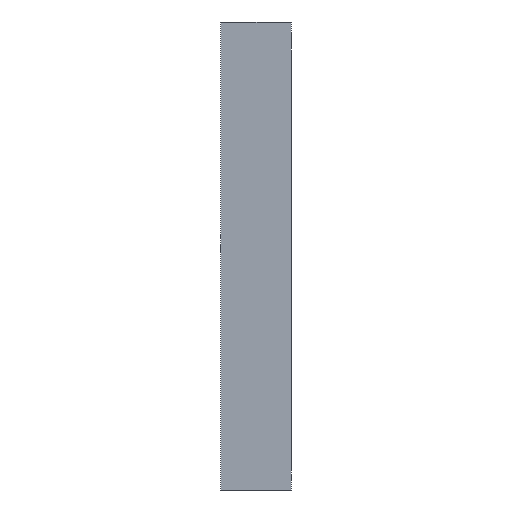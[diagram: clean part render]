
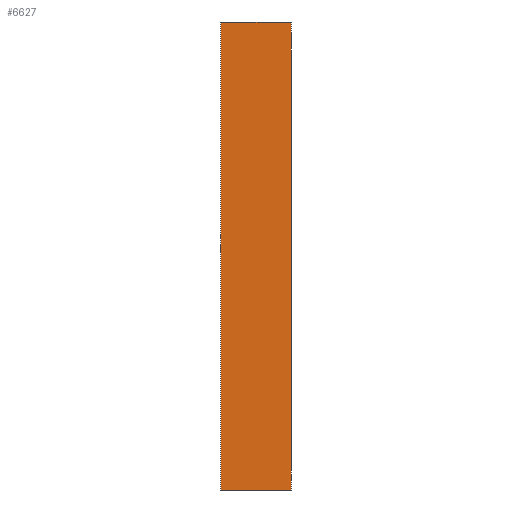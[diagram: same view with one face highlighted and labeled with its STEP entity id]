
A CAD part, left-side view. The second image highlights one B-rep face of the part: STEP entity #6627.
In plain terms, the highlighted planar face has unit normal (-1, 0, 0).
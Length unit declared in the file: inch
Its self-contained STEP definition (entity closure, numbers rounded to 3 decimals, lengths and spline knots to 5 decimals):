
#1243 = VERTEX_POINT ( 'NONE', #10885 ) ;
#1565 = EDGE_CURVE ( 'NONE', #1243, #1699, #4957, .T. ) ;
#1699 = VERTEX_POINT ( 'NONE', #7624 ) ;
#2345 = EDGE_CURVE ( 'NONE', #1699, #12385, #31453, .T. ) ;
#4015 = CARTESIAN_POINT ( 'NONE',  ( -11.51987, 2.7, 8.98487 ) ) ;
#4496 = CARTESIAN_POINT ( 'NONE',  ( -11.51987, 2.7, 8.98487 ) ) ;
#4904 = VECTOR ( 'NONE', #8959, 39.37008 ) ;
#4957 = LINE ( 'NONE', #4496, #39327 ) ;
#6627 = ADVANCED_FACE ( 'NONE', ( #40830 ), #23928, .T. ) ;
#7057 = EDGE_CURVE ( 'NONE', #32916, #12385, #30366, .T. ) ;
#7356 = DIRECTION ( 'NONE',  ( -1., 0., 0. ) ) ;
#7624 = CARTESIAN_POINT ( 'NONE',  ( -11.51987, 2.7, -8.98487 ) ) ;
#8959 = DIRECTION ( 'NONE',  ( 0., -1., 0. ) ) ;
#10885 = CARTESIAN_POINT ( 'NONE',  ( -11.51987, 2.7, 8.98487 ) ) ;
#12385 = VERTEX_POINT ( 'NONE', #27766 ) ;
#14508 = CARTESIAN_POINT ( 'NONE',  ( -11.51987, 2.7, -8.98487 ) ) ;
#14728 = VECTOR ( 'NONE', #38758, 39.37008 ) ;
#15445 = CARTESIAN_POINT ( 'NONE',  ( -11.51987, 0., 8.98487 ) ) ;
#19085 = LINE ( 'NONE', #22233, #37866 ) ;
#19725 = ORIENTED_EDGE ( 'NONE', *, *, #2345, .T. ) ;
#21256 = CARTESIAN_POINT ( 'NONE',  ( -11.51987, 0., 8.98487 ) ) ;
#22233 = CARTESIAN_POINT ( 'NONE',  ( -11.51987, 2.7, 8.98487 ) ) ;
#23447 = ORIENTED_EDGE ( 'NONE', *, *, #42883, .F. ) ;
#23704 = ORIENTED_EDGE ( 'NONE', *, *, #1565, .T. ) ;
#23928 = PLANE ( 'NONE',  #39537 ) ;
#27621 = DIRECTION ( 'NONE',  ( 0., 0., -1. ) ) ;
#27766 = CARTESIAN_POINT ( 'NONE',  ( -11.51987, 0., -8.98487 ) ) ;
#30030 = ORIENTED_EDGE ( 'NONE', *, *, #7057, .F. ) ;
#30366 = LINE ( 'NONE', #15445, #14728 ) ;
#30628 = DIRECTION ( 'NONE',  ( 0., 0., 1. ) ) ;
#31453 = LINE ( 'NONE', #14508, #4904 ) ;
#32916 = VERTEX_POINT ( 'NONE', #21256 ) ;
#36742 = EDGE_LOOP ( 'NONE', ( #30030, #23447, #23704, #19725 ) ) ;
#37866 = VECTOR ( 'NONE', #42196, 39.37008 ) ;
#38758 = DIRECTION ( 'NONE',  ( 0., 0., -1. ) ) ;
#39327 = VECTOR ( 'NONE', #27621, 39.37008 ) ;
#39537 = AXIS2_PLACEMENT_3D ( 'NONE', #4015, #7356, #30628 ) ;
#40830 = FACE_OUTER_BOUND ( 'NONE', #36742, .T. ) ;
#42196 = DIRECTION ( 'NONE',  ( 0., -1., 0. ) ) ;
#42883 = EDGE_CURVE ( 'NONE', #1243, #32916, #19085, .T. ) ;
